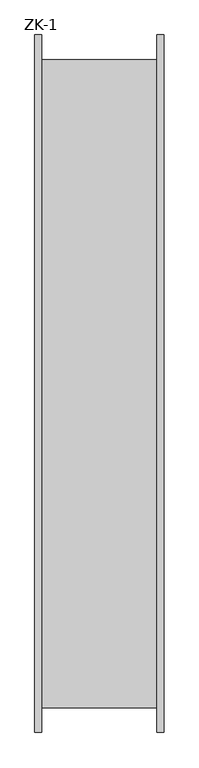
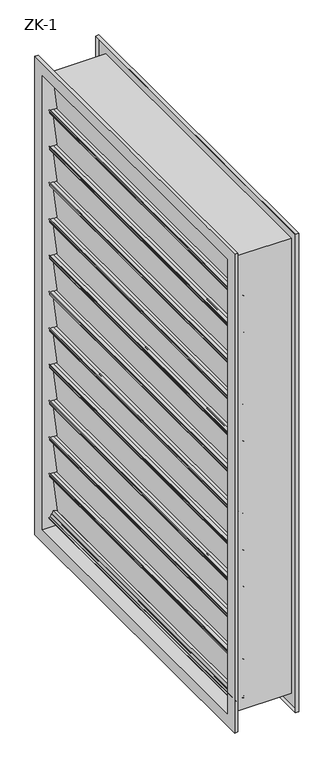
"""IFC4 building model written with IfcOpenShell, lengths in millimetres: damper geometry, DUA_UN_Self-closing valve ZK-1_SMA : ZK-1."""

import ifcopenshell
import ifcopenshell.guid

model = None  # the IFC model being written
_history = None  # IfcOwnerHistory: only IFC2X3 demands one
_inside = {}  # id of a spatial element -> (the spatial element, [elements in it])
_under = {}  # id of a project, library or spatial element -> (it, [spatial elements below it])
_declared = {}  # id of a project -> (the project, [libraries it declares])
_typed = {}  # id of a type object -> (the type object, [elements of that type])
_made_of = {}  # id of a material, layer set ... -> (it, [elements and type objects made of it])


def new_model(schema):
    """Start an empty IFC model of exactly this schema.

    Asked for "IFC4X3", IfcOpenShell would pick the latest addendum, in which some entities
    have other attributes; the version numbers below select the first issue.
    IFC2X3 requires an IfcOwnerHistory on every rooted entity: one is made here for all.
    """
    global model, _history
    if schema == "IFC4X3":
        model = ifcopenshell.file(schema_version=(4, 3, 0, 0))
    else:
        model = ifcopenshell.file(schema=schema)
    _inside.clear()
    _under.clear()
    _declared.clear()
    _typed.clear()
    _made_of.clear()
    _history = None
    if model.schema == "IFC2X3":
        org = make("IfcOrganization", Name="unknown")
        user = make(
            "IfcPersonAndOrganization",
            ThePerson=make("IfcPerson", FamilyName="unknown"),
            TheOrganization=org,
        )
        app = make(
            "IfcApplication",
            ApplicationDeveloper=org,
            Version="unknown",
            ApplicationFullName="unknown",
            ApplicationIdentifier="unknown",
        )
        _history = make(
            "IfcOwnerHistory",
            OwningUser=user,
            OwningApplication=app,
            ChangeAction="ADDED",
            CreationDate=0,
        )
    return model


def make(cls, **values):
    """One entity of the class cls with the attributes given. An attribute that is None is left unset."""
    return model.create_entity(
        cls, **{name: value for name, value in values.items() if value is not None}
    )


def rooted(cls, **values):
    """An entity with a GlobalId (a new one), such as an element, a storey or a relation."""
    return make(cls, GlobalId=ifcopenshell.guid.new(), OwnerHistory=_history, **values)


def si_unit(unit_type, name, prefix=None):
    """IfcSIUnit, for example si_unit("LENGTHUNIT", "METRE", prefix="MILLI")."""
    return make("IfcSIUnit", UnitType=unit_type, Prefix=prefix, Name=name)


def assignment(units):
    """IfcUnitAssignment: the units of a project."""
    return None if units is None else make("IfcUnitAssignment", Units=units)


def point(xyz):
    """IfcCartesianPoint."""
    return None if xyz is None else make("IfcCartesianPoint", Coordinates=xyz)


def direction(xyz):
    """IfcDirection."""
    return None if xyz is None else make("IfcDirection", DirectionRatios=xyz)


def frame(location, z_axis=None, x_axis=None):
    """IfcAxis2Placement3D, a coordinate frame: its origin and axes. An axis left out is left unset."""
    return make(
        "IfcAxis2Placement3D",
        Location=point(location),
        Axis=direction(z_axis),
        RefDirection=direction(x_axis),
    )


def frame_2d(location, x_axis=None):
    """IfcAxis2Placement2D, a coordinate frame in the plane: its origin and x axis."""
    return make(
        "IfcAxis2Placement2D", Location=point(location), RefDirection=direction(x_axis)
    )


def origin():
    """The frame at (0, 0, 0) with its axes left unset."""
    return frame((0.0, 0.0, 0.0))


def place(relative_to, where):
    """IfcLocalPlacement: puts the frame where relative to a parent placement (None: the world)."""
    return make(
        "IfcLocalPlacement", PlacementRelTo=relative_to, RelativePlacement=where
    )


def context(
    kind, dimensions, precision=None, world=None, true_north=None, identifier=None
):
    """IfcGeometricRepresentationContext, for example the 3D "Model" context."""
    return make(
        "IfcGeometricRepresentationContext",
        ContextIdentifier=identifier,
        ContextType=kind,
        CoordinateSpaceDimension=dimensions,
        Precision=precision,
        WorldCoordinateSystem=world,
        TrueNorth=true_north,
    )


def project(units=None, contexts=None):
    """IfcProject with its units and contexts."""
    return rooted(
        "IfcProject",
        Name="project",
        RepresentationContexts=contexts,
        UnitsInContext=assignment(units),
    )


def spatial(cls, under=None, at=None, **own):
    """A site, building, storey or space (cls), placed at a placement, below another one or the project."""
    s = rooted(cls, ObjectPlacement=at, **own)
    if under is not None:
        _under.setdefault(under.id(), (under, []))[1].append(s)
    return s


def polyline(points):
    """IfcPolyline through the points."""
    return make("IfcPolyline", Points=[point(p) for p in points])


def circle_curve(where, radius):
    """IfcCircle in the frame where."""
    return make("IfcCircle", Position=where, Radius=radius)


def trimmed(basis, trim1, trim2, sense, master):
    """IfcTrimmedCurve: the piece of a basis curve between two trims."""
    return make(
        "IfcTrimmedCurve",
        BasisCurve=basis,
        Trim1=trim1,
        Trim2=trim2,
        SenseAgreement=sense,
        MasterRepresentation=master,
    )


def segment(curve, same_sense, transition):
    """IfcCompositeCurveSegment."""
    return make(
        "IfcCompositeCurveSegment",
        Transition=transition,
        SameSense=same_sense,
        ParentCurve=curve,
    )


def composite_curve(segments, self_intersect=None):
    """IfcCompositeCurve: segments joined end to end."""
    return make("IfcCompositeCurve", Segments=segments, SelfIntersect=self_intersect)


def outline(outer, holes=None, kind="AREA"):
    """IfcArbitraryClosedProfileDef: a profile drawn as a closed curve; with holes, ...WithVoids."""
    if holes is None:
        return make("IfcArbitraryClosedProfileDef", ProfileType=kind, OuterCurve=outer)
    return make(
        "IfcArbitraryProfileDefWithVoids",
        ProfileType=kind,
        OuterCurve=outer,
        InnerCurves=holes,
    )


def extrude(swept, where, along, depth):
    """IfcExtrudedAreaSolid: the profile swept, set in the frame where, extruded along a direction by depth."""
    return make(
        "IfcExtrudedAreaSolid",
        SweptArea=swept,
        Position=where,
        ExtrudedDirection=direction(along),
        Depth=depth,
    )


def faces_of(points, faces, orient=None, outer=None):
    """IfcFace entities. A face is a list of loops; a loop is a list of indices into points, from 0.

    orient and outer hold one flag for each loop. By default every Orientation is true, the
    first loop of a face is its IfcFaceOuterBound and the others are IfcFaceBound.
    """
    made = []
    for i, loops in enumerate(faces):
        bounds = []
        for j, loop in enumerate(loops):
            is_outer = j == 0 if outer is None else outer[i][j]
            bounds.append(
                make(
                    "IfcFaceOuterBound" if is_outer else "IfcFaceBound",
                    Bound=make("IfcPolyLoop", Polygon=[points[k] for k in loop]),
                    Orientation=True if orient is None else orient[i][j],
                )
            )
        made.append(make("IfcFace", Bounds=bounds))
    return made


def faceted_brep(points, faces, orient=None, outer=None, voids=None):
    """IfcFacetedBrep: a solid bounded by flat faces; with voids (closed shells), ...WithVoids."""
    shared = [point(p) for p in points]
    hull = make("IfcClosedShell", CfsFaces=faces_of(shared, faces, orient, outer))
    if voids is None:
        return make("IfcFacetedBrep", Outer=hull)
    return make(
        "IfcFacetedBrepWithVoids",
        Outer=hull,
        Voids=[
            make(cls, CfsFaces=faces_of(shared, fs, o, b)) for cls, fs, o, b in voids
        ],
    )


def shape(context_of_items, identifier, shape_type, items):
    """IfcShapeRepresentation: the items that make up one representation, for example the "Body"."""
    return make(
        "IfcShapeRepresentation",
        ContextOfItems=context_of_items,
        RepresentationIdentifier=identifier,
        RepresentationType=shape_type,
        Items=items,
    )


def source(mapping_origin, context_of_items, identifier, shape_type, items):
    """IfcRepresentationMap: a shape defined once, which mapped items show again and again."""
    return make(
        "IfcRepresentationMap",
        MappingOrigin=mapping_origin,
        MappedRepresentation=shape(context_of_items, identifier, shape_type, items),
    )


def transform(
    local_origin,
    x_axis=None,
    y_axis=None,
    z_axis=None,
    scale=None,
    scale2=None,
    scale3=None,
    uniform=True,
):
    """IfcCartesianTransformationOperator3D, or its non-uniform kind. x_axis, y_axis, z_axis: its Axis1, 2, 3."""
    if uniform:
        return make(
            "IfcCartesianTransformationOperator3D",
            Axis1=direction(x_axis),
            Axis2=direction(y_axis),
            LocalOrigin=point(local_origin),
            Scale=scale,
            Axis3=direction(z_axis),
        )
    return make(
        "IfcCartesianTransformationOperator3DnonUniform",
        Axis1=direction(x_axis),
        Axis2=direction(y_axis),
        LocalOrigin=point(local_origin),
        Scale=scale,
        Axis3=direction(z_axis),
        Scale2=scale2,
        Scale3=scale3,
    )


def mapped(mapping_source, mapping_target):
    """IfcMappedItem: shows the shape of a source again, moved by a transform."""
    return make(
        "IfcMappedItem", MappingSource=mapping_source, MappingTarget=mapping_target
    )


def made_of(thing, what):
    """Note that an element or type object is made of a material, layer set ...; save() writes the relation."""
    if what is not None:
        _made_of.setdefault(what.id(), (what, []))[1].append(thing)
    return thing


def element(
    cls,
    number,
    at=None,
    inside=None,
    cuts=None,
    type_object=None,
    material=None,
    context=None,
    identifier="Body",
    shape_type=None,
    held_by="IfcProductDefinitionShape",
    body=None,
    shapes=None,
    **own,
):
    """One element of the class cls, such as IfcWall. Its Tag is "e" and its number.

    at: its placement. inside: the storey or other place that contains it. cuts: it is an
    opening in that element (IfcRelVoidsElement). A single representation is given by context,
    identifier, shape_type and body (its items); several are given by shapes. held_by: the class
    of the entity that holds the representations. save() writes the other relations.
    """
    e = rooted(cls, Tag="e%d" % number, ObjectPlacement=at, **own)
    if body is not None:
        shapes = [shape(context, identifier, shape_type, body)]
    if shapes is not None:
        e.Representation = make(held_by, Representations=shapes)
    if inside is not None:
        _inside.setdefault(inside.id(), (inside, []))[1].append(e)
    if cuts is not None:
        rooted(
            "IfcRelVoidsElement", RelatingBuildingElement=cuts, RelatedOpeningElement=e
        )
    if type_object is not None:
        _typed.setdefault(type_object.id(), (type_object, []))[1].append(e)
    return made_of(e, material)


def aggregate(whole, parts):
    """IfcRelAggregates: a whole, such as a stair, and the parts it consists of."""
    return rooted("IfcRelAggregates", RelatingObject=whole, RelatedObjects=parts)


def save(model, path):
    """Write the relations noted so far, then the file.

    IfcRelAggregates (storeys below a building ...), IfcRelContainedInSpatialStructure (elements
    in a storey), IfcRelDefinesByType, IfcRelAssociatesMaterial and IfcRelDeclares: one each for
    every whole, place, type object, material and project.
    """
    for whole, parts in _under.values():
        aggregate(whole, parts)
    for where, things in _inside.values():
        rooted(
            "IfcRelContainedInSpatialStructure",
            RelatedElements=things,
            RelatingStructure=where,
        )
    for kind, things in _typed.values():
        rooted("IfcRelDefinesByType", RelatedObjects=things, RelatingType=kind)
    for what, things in _made_of.values():
        rooted("IfcRelAssociatesMaterial", RelatedObjects=things, RelatingMaterial=what)
    for by, libraries in _declared.values():
        rooted("IfcRelDeclares", RelatingContext=by, RelatedDefinitions=libraries)
    model.write(path)


def zk_1_24b9cdc8(model_context):
    return source(origin(), model_context, "Body", "SolidModel", [
        extrude(outline(polyline([(-708.6299845, -47.849134), (-705.4518824, -51.1401551), (-597.8934535, -64.3466696), (-597.7758121, -63.1521024), (-587.8050506, -64.3763579), (-586.5863571, -54.4508964), (-573.6832571, -56.0351979), (-574.9019506, -65.9606594), (-572.9621583, -66.1988359), (-573.1280076, -75.7003323), (-570.0, -78.939479), (-570.8632078, -79.773069), (-574.3364996, -76.17637), (-574.177381, -67.060471), (-574.3475946, -68.4467493), (-706.0199005, -52.2794231), (-709.4931923, -48.6827241), (-708.6299845, -47.849134)])), frame((0.0, -500.0, 0.0), z_axis=(0.0, 1.0, 0.0), x_axis=(0.0, 0.0, 1.0)), (0.0, 0.0, 1.0), 1000.0),
        extrude(outline(composite_curve([segment(trimmed(circle_curve(frame_2d((-578.9759907, -74.5)), 3.5), [point((-578.9759907, -71.0))], [point((-578.9759907, -78.0))], False, "CARTESIAN"), True, "CONTINUOUS"), segment(trimmed(circle_curve(frame_2d((-578.9759907, -74.5)), 3.5), [point((-578.9759907, -78.0))], [point((-578.9759907, -71.0))], False, "CARTESIAN"), True, "CONTINUOUS")], self_intersect=False)), frame((0.0, -500.0, 0.0), z_axis=(0.0, 1.0, 0.0), x_axis=(0.0, 0.0, 1.0)), (0.0, 0.0, 1.0), 1000.0),
        extrude(outline(polyline([(-588.6299845, -47.849134), (-585.4518824, -51.1401551), (-477.8934535, -64.3466696), (-477.7758121, -63.1521024), (-467.8050506, -64.3763579), (-466.5863571, -54.4508964), (-453.6832571, -56.0351979), (-454.9019506, -65.9606594), (-452.9621583, -66.1988359), (-453.1280076, -75.7003323), (-450.0, -78.939479), (-450.8632078, -79.773069), (-454.3364996, -76.17637), (-454.177381, -67.060471), (-454.3475946, -68.4467493), (-586.0199005, -52.2794231), (-589.4931923, -48.6827241), (-588.6299845, -47.849134)])), frame((0.0, -500.0, 0.0), z_axis=(0.0, 1.0, 0.0), x_axis=(0.0, 0.0, 1.0)), (0.0, 0.0, 1.0), 1000.0),
        extrude(outline(composite_curve([segment(trimmed(circle_curve(frame_2d((-458.9759907, -74.5)), 3.5), [point((-458.9759907, -71.0))], [point((-458.9759907, -78.0))], False, "CARTESIAN"), True, "CONTINUOUS"), segment(trimmed(circle_curve(frame_2d((-458.9759907, -74.5)), 3.5), [point((-458.9759907, -78.0))], [point((-458.9759907, -71.0))], False, "CARTESIAN"), True, "CONTINUOUS")], self_intersect=False)), frame((0.0, -500.0, 0.0), z_axis=(0.0, 1.0, 0.0), x_axis=(0.0, 0.0, 1.0)), (0.0, 0.0, 1.0), 1000.0),
        extrude(outline(polyline([(-468.6299845, -47.849134), (-465.4518824, -51.1401551), (-357.8934535, -64.3466696), (-357.7758121, -63.1521024), (-347.8050506, -64.3763579), (-346.5863571, -54.4508964), (-333.6832571, -56.0351979), (-334.9019506, -65.9606594), (-332.9621583, -66.1988359), (-333.1280076, -75.7003323), (-330.0, -78.939479), (-330.8632078, -79.773069), (-334.3364996, -76.17637), (-334.177381, -67.060471), (-334.3475946, -68.4467493), (-466.0199005, -52.2794231), (-469.4931923, -48.6827241), (-468.6299845, -47.849134)])), frame((0.0, -500.0, 0.0), z_axis=(0.0, 1.0, 0.0), x_axis=(0.0, 0.0, 1.0)), (0.0, 0.0, 1.0), 1000.0),
        extrude(outline(composite_curve([segment(trimmed(circle_curve(frame_2d((-338.9759907, -74.5)), 3.5), [point((-338.9759907, -71.0))], [point((-338.9759907, -78.0))], False, "CARTESIAN"), True, "CONTINUOUS"), segment(trimmed(circle_curve(frame_2d((-338.9759907, -74.5)), 3.5), [point((-338.9759907, -78.0))], [point((-338.9759907, -71.0))], False, "CARTESIAN"), True, "CONTINUOUS")], self_intersect=False)), frame((0.0, -500.0, 0.0), z_axis=(0.0, 1.0, 0.0), x_axis=(0.0, 0.0, 1.0)), (0.0, 0.0, 1.0), 1000.0),
        extrude(outline(polyline([(-348.6299845, -47.849134), (-345.4518824, -51.1401551), (-237.8934535, -64.3466696), (-237.7758121, -63.1521024), (-227.8050506, -64.3763579), (-226.5863571, -54.4508964), (-213.6832571, -56.0351979), (-214.9019506, -65.9606594), (-212.9621583, -66.1988359), (-213.1280076, -75.7003323), (-210.0, -78.939479), (-210.8632078, -79.773069), (-214.3364996, -76.17637), (-214.177381, -67.060471), (-214.3475946, -68.4467493), (-346.0199005, -52.2794231), (-349.4931923, -48.6827241), (-348.6299845, -47.849134)])), frame((0.0, -500.0, 0.0), z_axis=(0.0, 1.0, 0.0), x_axis=(0.0, 0.0, 1.0)), (0.0, 0.0, 1.0), 1000.0),
        extrude(outline(composite_curve([segment(trimmed(circle_curve(frame_2d((-218.9759907, -74.5)), 3.5), [point((-218.9759907, -71.0))], [point((-218.9759907, -78.0))], False, "CARTESIAN"), True, "CONTINUOUS"), segment(trimmed(circle_curve(frame_2d((-218.9759907, -74.5)), 3.5), [point((-218.9759907, -78.0))], [point((-218.9759907, -71.0))], False, "CARTESIAN"), True, "CONTINUOUS")], self_intersect=False)), frame((0.0, -500.0, 0.0), z_axis=(0.0, 1.0, 0.0), x_axis=(0.0, 0.0, 1.0)), (0.0, 0.0, 1.0), 1000.0),
        extrude(outline(polyline([(-228.6299845, -47.849134), (-225.4518824, -51.1401551), (-117.8934535, -64.3466696), (-117.7758121, -63.1521024), (-107.8050506, -64.3763579), (-106.5863571, -54.4508964), (-93.6832571, -56.0351979), (-94.9019506, -65.9606594), (-92.9621583, -66.1988359), (-93.1280076, -75.7003323), (-90.0, -78.939479), (-90.8632078, -79.773069), (-94.3364996, -76.17637), (-94.177381, -67.060471), (-94.3475946, -68.4467493), (-226.0199005, -52.2794231), (-229.4931923, -48.6827241), (-228.6299845, -47.849134)])), frame((0.0, -500.0, 0.0), z_axis=(0.0, 1.0, 0.0), x_axis=(0.0, 0.0, 1.0)), (0.0, 0.0, 1.0), 1000.0),
        extrude(outline(composite_curve([segment(trimmed(circle_curve(frame_2d((-98.9759907, -74.5)), 3.5), [point((-98.9759907, -71.0))], [point((-98.9759907, -78.0))], False, "CARTESIAN"), True, "CONTINUOUS"), segment(trimmed(circle_curve(frame_2d((-98.9759907, -74.5)), 3.5), [point((-98.9759907, -78.0))], [point((-98.9759907, -71.0))], False, "CARTESIAN"), True, "CONTINUOUS")], self_intersect=False)), frame((0.0, -500.0, 0.0), z_axis=(0.0, 1.0, 0.0), x_axis=(0.0, 0.0, 1.0)), (0.0, 0.0, 1.0), 1000.0),
        extrude(outline(polyline([(-108.6299845, -47.849134), (-105.4518824, -51.1401551), (2.1065465, -64.3466696), (2.2241879, -63.1521024), (12.1949494, -64.3763579), (13.4136429, -54.4508964), (26.3167429, -56.0351979), (25.0980494, -65.9606594), (27.0378417, -66.1988359), (26.8719924, -75.7003323), (30.0, -78.939479), (29.1367922, -79.773069), (25.6635004, -76.17637), (25.822619, -67.060471), (25.6524054, -68.4467493), (-106.0199005, -52.2794231), (-109.4931923, -48.6827241), (-108.6299845, -47.849134)])), frame((0.0, -500.0, 0.0), z_axis=(0.0, 1.0, 0.0), x_axis=(0.0, 0.0, 1.0)), (0.0, 0.0, 1.0), 1000.0),
        extrude(outline(composite_curve([segment(trimmed(circle_curve(frame_2d((21.0240093, -74.5)), 3.5), [point((21.0240093, -71.0))], [point((21.0240093, -78.0))], False, "CARTESIAN"), True, "CONTINUOUS"), segment(trimmed(circle_curve(frame_2d((21.0240093, -74.5)), 3.5), [point((21.0240093, -78.0))], [point((21.0240093, -71.0))], False, "CARTESIAN"), True, "CONTINUOUS")], self_intersect=False)), frame((0.0, -500.0, 0.0), z_axis=(0.0, 1.0, 0.0), x_axis=(0.0, 0.0, 1.0)), (0.0, 0.0, 1.0), 1000.0),
        extrude(outline(polyline([(11.3700155, -47.849134), (14.5481176, -51.1401551), (122.1065465, -64.3466696), (122.2241879, -63.1521024), (132.1949494, -64.3763579), (133.4136429, -54.4508964), (146.3167429, -56.0351979), (145.0980494, -65.9606594), (147.0378417, -66.1988359), (146.8719924, -75.7003323), (150.0, -78.939479), (149.1367922, -79.773069), (145.6635004, -76.17637), (145.822619, -67.060471), (145.6524054, -68.4467493), (13.9800995, -52.2794231), (10.5068077, -48.6827241), (11.3700155, -47.849134)])), frame((0.0, -500.0, 0.0), z_axis=(0.0, 1.0, 0.0), x_axis=(0.0, 0.0, 1.0)), (0.0, 0.0, 1.0), 1000.0),
        extrude(outline(composite_curve([segment(trimmed(circle_curve(frame_2d((141.0240093, -74.5)), 3.5), [point((141.0240093, -71.0))], [point((141.0240093, -78.0))], False, "CARTESIAN"), True, "CONTINUOUS"), segment(trimmed(circle_curve(frame_2d((141.0240093, -74.5)), 3.5), [point((141.0240093, -78.0))], [point((141.0240093, -71.0))], False, "CARTESIAN"), True, "CONTINUOUS")], self_intersect=False)), frame((0.0, -500.0, 0.0), z_axis=(0.0, 1.0, 0.0), x_axis=(0.0, 0.0, 1.0)), (0.0, 0.0, 1.0), 1000.0),
        extrude(outline(polyline([(131.3700155, -47.849134), (134.5481176, -51.1401551), (242.1065465, -64.3466696), (242.2241879, -63.1521024), (252.1949494, -64.3763579), (253.4136429, -54.4508964), (266.3167429, -56.0351979), (265.0980494, -65.9606594), (267.0378417, -66.1988359), (266.8719924, -75.7003323), (270.0, -78.939479), (269.1367922, -79.773069), (265.6635004, -76.17637), (265.822619, -67.060471), (265.6524054, -68.4467493), (133.9800995, -52.2794231), (130.5068077, -48.6827241), (131.3700155, -47.849134)])), frame((0.0, -500.0, 0.0), z_axis=(0.0, 1.0, 0.0), x_axis=(0.0, 0.0, 1.0)), (0.0, 0.0, 1.0), 1000.0),
        extrude(outline(composite_curve([segment(trimmed(circle_curve(frame_2d((261.0240093, -74.5)), 3.5), [point((261.0240093, -71.0))], [point((261.0240093, -78.0))], False, "CARTESIAN"), True, "CONTINUOUS"), segment(trimmed(circle_curve(frame_2d((261.0240093, -74.5)), 3.5), [point((261.0240093, -78.0))], [point((261.0240093, -71.0))], False, "CARTESIAN"), True, "CONTINUOUS")], self_intersect=False)), frame((0.0, -500.0, 0.0), z_axis=(0.0, 1.0, 0.0), x_axis=(0.0, 0.0, 1.0)), (0.0, 0.0, 1.0), 1000.0),
        extrude(outline(polyline([(251.3700155, -47.849134), (254.5481176, -51.1401551), (362.1065465, -64.3466696), (362.2241879, -63.1521024), (372.1949494, -64.3763579), (373.4136429, -54.4508964), (386.3167429, -56.0351979), (385.0980494, -65.9606594), (387.0378417, -66.1988359), (386.8719924, -75.7003323), (390.0, -78.939479), (389.1367922, -79.773069), (385.6635004, -76.17637), (385.822619, -67.060471), (385.6524054, -68.4467493), (253.9800995, -52.2794231), (250.5068077, -48.6827241), (251.3700155, -47.849134)])), frame((0.0, -500.0, 0.0), z_axis=(0.0, 1.0, 0.0), x_axis=(0.0, 0.0, 1.0)), (0.0, 0.0, 1.0), 1000.0),
        extrude(outline(composite_curve([segment(trimmed(circle_curve(frame_2d((381.0240093, -74.5)), 3.5), [point((381.0240093, -71.0))], [point((381.0240093, -78.0))], False, "CARTESIAN"), True, "CONTINUOUS"), segment(trimmed(circle_curve(frame_2d((381.0240093, -74.5)), 3.5), [point((381.0240093, -78.0))], [point((381.0240093, -71.0))], False, "CARTESIAN"), True, "CONTINUOUS")], self_intersect=False)), frame((0.0, -500.0, 0.0), z_axis=(0.0, 1.0, 0.0), x_axis=(0.0, 0.0, 1.0)), (0.0, 0.0, 1.0), 1000.0),
        extrude(outline(polyline([(371.3700155, -47.849134), (374.5481176, -51.1401551), (482.1065465, -64.3466696), (482.2241879, -63.1521024), (492.1949494, -64.3763579), (493.4136429, -54.4508964), (506.3167429, -56.0351979), (505.0980494, -65.9606594), (507.0378417, -66.1988359), (506.8719924, -75.7003323), (510.0, -78.939479), (509.1367922, -79.773069), (505.6635004, -76.17637), (505.822619, -67.060471), (505.6524054, -68.4467493), (373.9800995, -52.2794231), (370.5068077, -48.6827241), (371.3700155, -47.849134)])), frame((0.0, -500.0, 0.0), z_axis=(0.0, 1.0, 0.0), x_axis=(0.0, 0.0, 1.0)), (0.0, 0.0, 1.0), 1000.0),
        extrude(outline(composite_curve([segment(trimmed(circle_curve(frame_2d((501.0240093, -74.5)), 3.5), [point((501.0240093, -71.0))], [point((501.0240093, -78.0))], False, "CARTESIAN"), True, "CONTINUOUS"), segment(trimmed(circle_curve(frame_2d((501.0240093, -74.5)), 3.5), [point((501.0240093, -78.0))], [point((501.0240093, -71.0))], False, "CARTESIAN"), True, "CONTINUOUS")], self_intersect=False)), frame((0.0, -500.0, 0.0), z_axis=(0.0, 1.0, 0.0), x_axis=(0.0, 0.0, 1.0)), (0.0, 0.0, 1.0), 1000.0),
        extrude(outline(polyline([(491.3700155, -47.849134), (494.5481176, -51.1401551), (602.1065465, -64.3466696), (602.2241879, -63.1521024), (612.1949494, -64.3763579), (613.4136429, -54.4508964), (626.3167429, -56.0351979), (625.0980494, -65.9606594), (627.0378417, -66.1988359), (626.8719924, -75.7003323), (630.0, -78.939479), (629.1367922, -79.773069), (625.6635004, -76.17637), (625.822619, -67.060471), (625.6524054, -68.4467493), (493.9800995, -52.2794231), (490.5068077, -48.6827241), (491.3700155, -47.849134)])), frame((0.0, -500.0, 0.0), z_axis=(0.0, 1.0, 0.0), x_axis=(0.0, 0.0, 1.0)), (0.0, 0.0, 1.0), 1000.0),
        extrude(outline(composite_curve([segment(trimmed(circle_curve(frame_2d((621.0240093, -74.5)), 3.5), [point((621.0240093, -71.0))], [point((621.0240093, -78.0))], False, "CARTESIAN"), True, "CONTINUOUS"), segment(trimmed(circle_curve(frame_2d((621.0240093, -74.5)), 3.5), [point((621.0240093, -78.0))], [point((621.0240093, -71.0))], False, "CARTESIAN"), True, "CONTINUOUS")], self_intersect=False)), frame((0.0, -500.0, 0.0), z_axis=(0.0, 1.0, 0.0), x_axis=(0.0, 0.0, 1.0)), (0.0, 0.0, 1.0), 1000.0),
        extrude(outline(polyline([(611.3700155, -47.849134), (614.5481176, -51.1401551), (722.1065465, -64.3466696), (722.2241879, -63.1521024), (732.1949494, -64.3763579), (733.4136429, -54.4508964), (746.3167429, -56.0351979), (745.0980494, -65.9606594), (747.0378417, -66.1988359), (746.8719924, -75.7003323), (750.0, -78.939479), (749.1367922, -79.773069), (745.6635004, -76.17637), (745.822619, -67.060471), (745.6524054, -68.4467493), (613.9800995, -52.2794231), (610.5068077, -48.6827241), (611.3700155, -47.849134)])), frame((0.0, -500.0, 0.0), z_axis=(0.0, 1.0, 0.0), x_axis=(0.0, 0.0, 1.0)), (0.0, 0.0, 1.0), 1000.0),
        extrude(outline(composite_curve([segment(trimmed(circle_curve(frame_2d((741.0240093, -74.5)), 3.5), [point((741.0240093, -71.0))], [point((741.0240093, -78.0))], False, "CARTESIAN"), True, "CONTINUOUS"), segment(trimmed(circle_curve(frame_2d((741.0240093, -74.5)), 3.5), [point((741.0240093, -78.0))], [point((741.0240093, -71.0))], False, "CARTESIAN"), True, "CONTINUOUS")], self_intersect=False)), frame((0.0, -500.0, 0.0), z_axis=(0.0, 1.0, 0.0), x_axis=(0.0, 0.0, 1.0)), (0.0, 0.0, 1.0), 1000.0),
        extrude(outline(polyline([(-748.8761814, 58.7511763), (-750.4803161, 54.4665637), (-716.1411725, -48.315005), (-715.0121455, -47.9074167), (-711.8288765, -57.4353591), (-702.3442222, -54.2665526), (-698.2247738, -66.596603), (-707.709428, -69.7654095), (-707.0901292, -71.6190522), (-715.739201, -75.5559923), (-717.3180506, -79.773069), (-718.4418692, -79.3523177), (-716.6887387, -74.6697401), (-708.3906706, -70.892572), (-709.7153818, -71.3351557), (-751.7531306, 54.48935), (-750.0, 59.1719277), (-748.8761814, 58.7511763)])), frame((0.0, -500.0, 0.0), z_axis=(0.0, 1.0, 0.0), x_axis=(0.0, 0.0, 1.0)), (0.0, 0.0, 1.0), 1000.0),
        extrude(outline(composite_curve([segment(trimmed(circle_curve(frame_2d((-717.1708293, -69.7602917)), 3.5), [point((-714.0111075, -68.2549154))], [point((-720.3305511, -71.2656681))], False, "CARTESIAN"), True, "CONTINUOUS"), segment(trimmed(circle_curve(frame_2d((-717.1708293, -69.7602917)), 3.5), [point((-720.3305511, -71.2656681))], [point((-714.0111075, -68.2549154))], False, "CARTESIAN"), True, "CONTINUOUS")], self_intersect=False)), frame((0.0, -500.0, 0.0), z_axis=(0.0, 1.0, 0.0), x_axis=(0.0, 0.0, 1.0)), (0.0, 0.0, 1.0), 1000.0),
        faceted_brep([(89.5, 540.000463, 790.000463), (100.0, 540.000463, 790.000463), (100.0, 540.000463, -790.000463), (89.5, 540.000463, -790.000463), (98.5, 538.500463, 788.500463), (89.5, 538.500463, 788.500463), (89.5, 538.500463, -788.500463), (98.5, 538.500463, -788.500463), (-98.4735026, 501.500463, 751.500463), (98.5, 501.500463, 751.500463), (98.5, 501.500463, -751.500463), (-98.4735026, 501.500463, -751.500463), (100.0, 500.000463, 750.000463), (-100.0, 500.000463, 750.000463), (-100.0, 500.000463, -750.000463), (100.0, 500.000463, -750.000463), (100.0, -540.000463, -790.000463), (89.5, -540.000463, -790.000463), (89.5, -538.500463, -788.500463), (98.5, -538.500463, -788.500463), (98.5, -501.500463, -751.500463), (-98.4735026, -501.500463, -751.500463), (-100.0, -500.000463, -750.000463), (100.0, -500.000463, -750.000463), (100.0, -540.000463, 790.000463), (89.5, -540.000463, 790.000463), (89.5, -538.500463, 788.500463), (98.5, -538.500463, 788.500463), (98.5, -501.500463, 751.500463), (-98.4735026, -501.500463, 751.500463), (-100.0, -500.000463, 750.000463), (100.0, -500.000463, 750.000463), (-89.5, 538.4678277, 788.4678277), (-98.4735026, 538.4678277, 788.4678277), (-98.4735026, 538.4678277, -788.4678277), (-89.5, 538.4678277, -788.4678277), (-100.0, 540.000463, 790.000463), (-89.5, 540.000463, 790.000463), (-89.5, 540.000463, -790.000463), (-100.0, 540.000463, -790.000463), (-98.4735026, -538.4678277, -788.4678277), (-89.5, -538.4678277, -788.4678277), (-89.5, -540.000463, -790.000463), (-100.0, -540.000463, -790.000463), (-98.4735026, -538.4678277, 788.4678277), (-89.5, -538.4678277, 788.4678277), (-89.5, -540.000463, 790.000463), (-100.0, -540.000463, 790.000463)], [[[0, 1, 2, 3]], [[4, 5, 6, 7]], [[8, 9, 10, 11]], [[12, 13, 14, 15]], [[3, 2, 16, 17]], [[7, 6, 18, 19]], [[11, 10, 20, 21]], [[15, 14, 22, 23]], [[17, 16, 24, 25]], [[19, 18, 26, 27]], [[21, 20, 28, 29]], [[23, 22, 30, 31]], [[1, 24, 16, 2], [15, 23, 31, 12]], [[25, 24, 1, 0]], [[3, 17, 25, 0], [5, 26, 18, 6]], [[27, 26, 5, 4]], [[7, 19, 27, 4], [9, 28, 20, 10]], [[29, 28, 9, 8]], [[31, 30, 13, 12]], [[32, 33, 34, 35]], [[36, 37, 38, 39]], [[35, 34, 40, 41]], [[39, 38, 42, 43]], [[41, 40, 44, 45]], [[43, 42, 46, 47]], [[33, 44, 40, 34], [11, 21, 29, 8]], [[45, 44, 33, 32]], [[37, 46, 42, 38], [35, 41, 45, 32]], [[47, 46, 37, 36]], [[39, 43, 47, 36], [13, 30, 22, 14]]]),
    ])


if __name__ == "__main__":
    model = new_model("IFC4")
    model_context = context("Model", 3, world=origin())
    ifc_project = project(units=[si_unit("LENGTHUNIT", "METRE", prefix="MILLI")], contexts=[model_context])
    site = spatial("IfcSite", under=ifc_project)
    building = spatial("IfcBuilding", under=site)
    placement = place(None, origin())
    zk_1_shape = zk_1_24b9cdc8(model_context)
    element("IfcDamper", 1, ObjectType="DUA_UN_Self-closing valve ZK-1_SMA : ZK-1", at=placement, inside=building, context=model_context, shape_type="MappedRepresentation", body=[
        mapped(zk_1_shape, transform((0.0, 0.0, 0.0), x_axis=(1.0, 0.0, 0.0), y_axis=(0.0, 1.0, 0.0), z_axis=(0.0, 0.0, 1.0))),
    ])
    save(model, "model.ifc")
